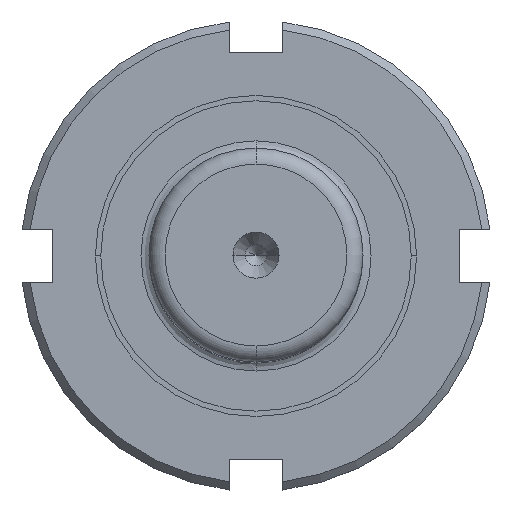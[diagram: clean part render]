
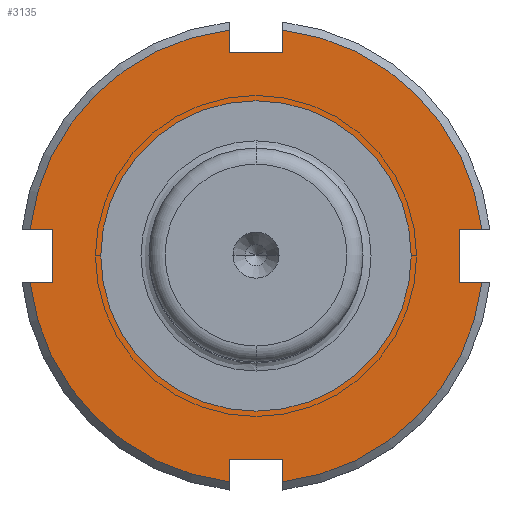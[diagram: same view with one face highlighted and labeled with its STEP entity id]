
A CAD part, top view. The second image highlights one B-rep face of the part: STEP entity #3135.
In plain terms, the highlighted planar face has unit normal (0, 0, 1).
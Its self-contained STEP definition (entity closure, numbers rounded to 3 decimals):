
#2227=CARTESIAN_POINT('',(0.0,14.5,22.0));
#2228=VERTEX_POINT('',#2227);
#2244=CARTESIAN_POINT('',(0.,-14.5,22.0));
#2245=VERTEX_POINT('',#2244);
#2252=CARTESIAN_POINT('',(0.0,0.0,22.0));
#2253=DIRECTION('',(0.0,0.0,-1.0));
#2254=DIRECTION('',(0.0,1.0,0.0));
#2255=AXIS2_PLACEMENT_3D('',#2252,#2253,#2254);
#2256=CIRCLE('',#2255,14.5);
#2257=EDGE_CURVE('',#2228,#2245,#2256,.T.);
#2292=CARTESIAN_POINT('',(-19.0,2.5,22.));
#2293=VERTEX_POINT('',#2292);
#2300=CARTESIAN_POINT('',(-21.102,2.5,22.0));
#2301=VERTEX_POINT('',#2300);
#2302=CARTESIAN_POINT('',(-21.102,2.5,22.0));
#2303=DIRECTION('',(1.0,0.0,0.0));
#2304=VECTOR('',#2303,2.102);
#2305=LINE('',#2302,#2304);
#2306=EDGE_CURVE('',#2301,#2293,#2305,.T.);
#2362=CARTESIAN_POINT('',(-21.102,-2.5,22.));
#2363=VERTEX_POINT('',#2362);
#2377=CARTESIAN_POINT('',(-19.0,-2.5,22.));
#2378=VERTEX_POINT('',#2377);
#2379=CARTESIAN_POINT('',(-19.0,-2.5,22.));
#2380=DIRECTION('',(-1.0,0.0,0.0));
#2381=VECTOR('',#2380,2.102);
#2382=LINE('',#2379,#2381);
#2383=EDGE_CURVE('',#2378,#2363,#2382,.T.);
#2414=CARTESIAN_POINT('',(-19.0,2.5,22.));
#2415=DIRECTION('',(0.0,-1.0,0.0));
#2416=VECTOR('',#2415,5.0);
#2417=LINE('',#2414,#2416);
#2418=EDGE_CURVE('',#2293,#2378,#2417,.T.);
#2454=CARTESIAN_POINT('',(-2.5,-19.0,22.0));
#2455=VERTEX_POINT('',#2454);
#2462=CARTESIAN_POINT('',(-2.5,-21.102,22.0));
#2463=VERTEX_POINT('',#2462);
#2464=CARTESIAN_POINT('',(-2.5,-21.102,22.0));
#2465=DIRECTION('',(0.0,1.0,0.0));
#2466=VECTOR('',#2465,2.102);
#2467=LINE('',#2464,#2466);
#2468=EDGE_CURVE('',#2463,#2455,#2467,.T.);
#2524=CARTESIAN_POINT('',(2.5,-21.102,22.0));
#2525=VERTEX_POINT('',#2524);
#2539=CARTESIAN_POINT('',(2.5,-19.0,22.0));
#2540=VERTEX_POINT('',#2539);
#2541=CARTESIAN_POINT('',(2.5,-19.0,22.0));
#2542=DIRECTION('',(0.0,-1.0,0.0));
#2543=VECTOR('',#2542,2.102);
#2544=LINE('',#2541,#2543);
#2545=EDGE_CURVE('',#2540,#2525,#2544,.T.);
#2576=CARTESIAN_POINT('',(-2.5,-19.0,22.0));
#2577=DIRECTION('',(1.0,0.0,0.0));
#2578=VECTOR('',#2577,5.0);
#2579=LINE('',#2576,#2578);
#2580=EDGE_CURVE('',#2455,#2540,#2579,.T.);
#2616=CARTESIAN_POINT('',(19.0,-2.5,22.));
#2617=VERTEX_POINT('',#2616);
#2624=CARTESIAN_POINT('',(21.102,-2.5,22.0));
#2625=VERTEX_POINT('',#2624);
#2626=CARTESIAN_POINT('',(21.102,-2.5,22.0));
#2627=DIRECTION('',(-1.0,0.0,0.0));
#2628=VECTOR('',#2627,2.102);
#2629=LINE('',#2626,#2628);
#2630=EDGE_CURVE('',#2625,#2617,#2629,.T.);
#2686=CARTESIAN_POINT('',(21.102,2.5,22.0));
#2687=VERTEX_POINT('',#2686);
#2701=CARTESIAN_POINT('',(19.0,2.5,22.));
#2702=VERTEX_POINT('',#2701);
#2703=CARTESIAN_POINT('',(19.0,2.5,22.));
#2704=DIRECTION('',(1.0,0.0,0.0));
#2705=VECTOR('',#2704,2.102);
#2706=LINE('',#2703,#2705);
#2707=EDGE_CURVE('',#2702,#2687,#2706,.T.);
#2738=CARTESIAN_POINT('',(19.0,-2.5,22.));
#2739=DIRECTION('',(0.0,1.0,0.0));
#2740=VECTOR('',#2739,5.0);
#2741=LINE('',#2738,#2740);
#2742=EDGE_CURVE('',#2617,#2702,#2741,.T.);
#2778=CARTESIAN_POINT('',(2.5,19.0,22.0));
#2779=VERTEX_POINT('',#2778);
#2786=CARTESIAN_POINT('',(2.5,21.102,22.0));
#2787=VERTEX_POINT('',#2786);
#2788=CARTESIAN_POINT('',(2.5,21.102,22.0));
#2789=DIRECTION('',(0.0,-1.0,0.0));
#2790=VECTOR('',#2789,2.102);
#2791=LINE('',#2788,#2790);
#2792=EDGE_CURVE('',#2787,#2779,#2791,.T.);
#2848=CARTESIAN_POINT('',(-2.5,21.102,22.0));
#2849=VERTEX_POINT('',#2848);
#2863=CARTESIAN_POINT('',(-2.5,19.0,22.0));
#2864=VERTEX_POINT('',#2863);
#2865=CARTESIAN_POINT('',(-2.5,19.0,22.0));
#2866=DIRECTION('',(0.0,1.0,0.0));
#2867=VECTOR('',#2866,2.102);
#2868=LINE('',#2865,#2867);
#2869=EDGE_CURVE('',#2864,#2849,#2868,.T.);
#2900=CARTESIAN_POINT('',(2.5,19.0,22.0));
#2901=DIRECTION('',(-1.0,0.0,0.0));
#2902=VECTOR('',#2901,5.0);
#2903=LINE('',#2900,#2902);
#2904=EDGE_CURVE('',#2779,#2864,#2903,.T.);
#3078=CARTESIAN_POINT('',(0.0,17.875,22.0));
#3079=DIRECTION('',(0.0,0.0,1.0));
#3080=DIRECTION('',(1.0,0.0,0.0));
#3081=AXIS2_PLACEMENT_3D('',#3078,#3079,#3080);
#3082=PLANE('',#3081);
#3083=ORIENTED_EDGE('',*,*,#2306,.T.);
#3084=ORIENTED_EDGE('',*,*,#2418,.T.);
#3085=ORIENTED_EDGE('',*,*,#2383,.T.);
#3086=CARTESIAN_POINT('',(0.0,0.0,22.0));
#3087=DIRECTION('',(0.0,0.0,-1.0));
#3088=DIRECTION('',(0.0,1.0,0.0));
#3089=AXIS2_PLACEMENT_3D('',#3086,#3087,#3088);
#3090=CIRCLE('',#3089,21.25);
#3091=EDGE_CURVE('',#2463,#2363,#3090,.T.);
#3092=ORIENTED_EDGE('',*,*,#3091,.F.);
#3093=ORIENTED_EDGE('',*,*,#2468,.T.);
#3094=ORIENTED_EDGE('',*,*,#2580,.T.);
#3095=ORIENTED_EDGE('',*,*,#2545,.T.);
#3096=CARTESIAN_POINT('',(0.0,0.0,22.0));
#3097=DIRECTION('',(0.0,0.0,-1.0));
#3098=DIRECTION('',(0.0,1.0,0.0));
#3099=AXIS2_PLACEMENT_3D('',#3096,#3097,#3098);
#3100=CIRCLE('',#3099,21.25);
#3101=EDGE_CURVE('',#2625,#2525,#3100,.T.);
#3102=ORIENTED_EDGE('',*,*,#3101,.F.);
#3103=ORIENTED_EDGE('',*,*,#2630,.T.);
#3104=ORIENTED_EDGE('',*,*,#2742,.T.);
#3105=ORIENTED_EDGE('',*,*,#2707,.T.);
#3106=CARTESIAN_POINT('',(0.0,0.0,22.0));
#3107=DIRECTION('',(0.0,0.0,-1.0));
#3108=DIRECTION('',(0.0,1.0,0.0));
#3109=AXIS2_PLACEMENT_3D('',#3106,#3107,#3108);
#3110=CIRCLE('',#3109,21.25);
#3111=EDGE_CURVE('',#2787,#2687,#3110,.T.);
#3112=ORIENTED_EDGE('',*,*,#3111,.F.);
#3113=ORIENTED_EDGE('',*,*,#2792,.T.);
#3114=ORIENTED_EDGE('',*,*,#2904,.T.);
#3115=ORIENTED_EDGE('',*,*,#2869,.T.);
#3116=CARTESIAN_POINT('',(0.0,0.0,22.0));
#3117=DIRECTION('',(0.0,0.0,-1.0));
#3118=DIRECTION('',(0.0,1.0,0.0));
#3119=AXIS2_PLACEMENT_3D('',#3116,#3117,#3118);
#3120=CIRCLE('',#3119,21.25);
#3121=EDGE_CURVE('',#2301,#2849,#3120,.T.);
#3122=ORIENTED_EDGE('',*,*,#3121,.F.);
#3123=EDGE_LOOP('',(#3083,#3084,#3085,#3092,#3093,#3094,#3095,#3102,#3103,#3104,#3105,#3112,#3113,#3114,#3115,#3122));
#3124=FACE_OUTER_BOUND('',#3123,.T.);
#3125=ORIENTED_EDGE('',*,*,#2257,.T.);
#3126=CARTESIAN_POINT('',(0.0,0.0,22.0));
#3127=DIRECTION('',(0.0,0.0,-1.0));
#3128=DIRECTION('',(0.0,1.0,0.0));
#3129=AXIS2_PLACEMENT_3D('',#3126,#3127,#3128);
#3130=CIRCLE('',#3129,14.5);
#3131=EDGE_CURVE('',#2245,#2228,#3130,.T.);
#3132=ORIENTED_EDGE('',*,*,#3131,.T.);
#3133=EDGE_LOOP('',(#3125,#3132));
#3134=FACE_BOUND('',#3133,.T.);
#3135=ADVANCED_FACE('',(#3124,#3134),#3082,.T.);
